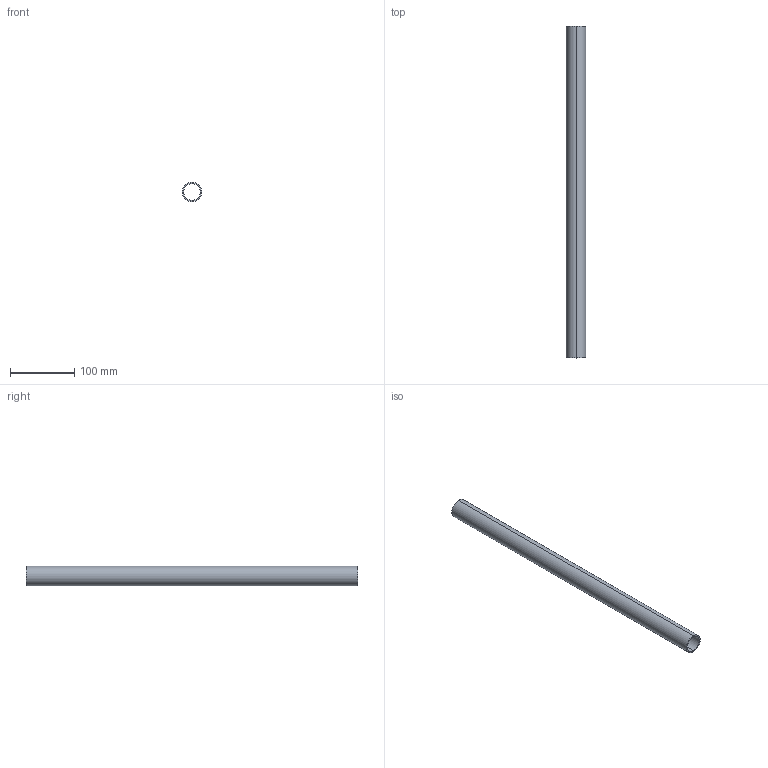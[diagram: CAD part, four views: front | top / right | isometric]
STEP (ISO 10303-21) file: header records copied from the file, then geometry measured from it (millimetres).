
FILE_DESCRIPTION (( 'STEP AP214' ), '1' );
FILE_NAME ('褐殤笢陑嶺裝-1.STEP', '2024-07-15T01:22:47', ( 'China' ), ( 'Microsoft' ), 'SwSTEP 2.0', 'SolidWorks 2022', '' );
FILE_SCHEMA (( 'AUTOMOTIVE_DESIGN' ));
Length unit declared in the file: millimetre
Products named in the file (1): 褐殤笢陑嶺裝-1
Bounding box: 30 x 515 x 30 mm (x, y, z)
Volume: 90603.5 mm3; surface area: 90955.4 mm2
Topology: 1 solids, 1 shells, 6 faces, 12 edges, 8 vertices
Faces by surface type: cylinder 4, plane 2
Entity records: 202 total; most frequent: DIRECTION 34, CARTESIAN_POINT 27, ORIENTED_EDGE 24, AXIS2_PLACEMENT_3D 15, EDGE_CURVE 12, EDGE_LOOP 8, VERTEX_POINT 8, CIRCLE 8
